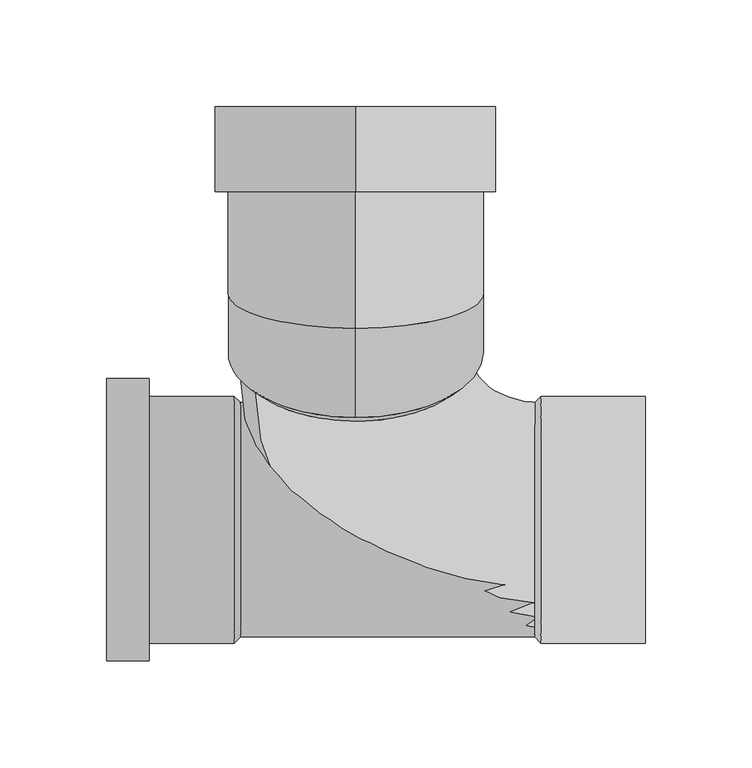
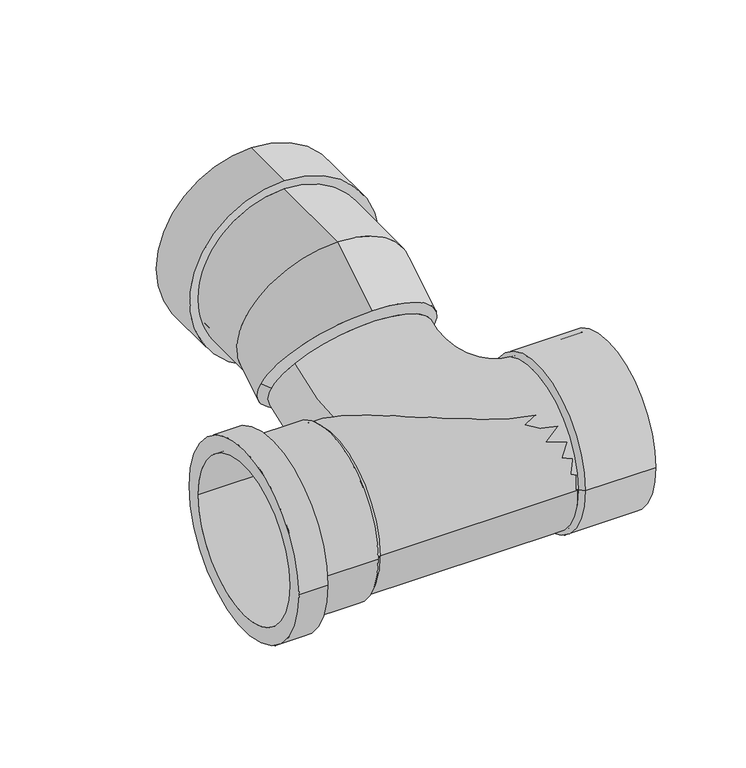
"""IFC4 building model written with IfcOpenShell, lengths in millimetres: pipe fitting geometry, Wavin_PipeAccessory_S&WSPvcBranchWc : 31º."""

from ifc_helpers import new_model, si_unit, point, frame, origin, origin_2d, place, context, project, spatial, polyline, circle_curve, ellipse_curve, trimmed, segment, composite_curve, outline, extrude, source, transform, mapped, element, save
from ifc_brep_helpers import plane_surface, cylinder_surface, revolved_surface, advanced_brep


def pipe_fitting_9da17241(model_context):
    return source(origin(), model_context, "Body", "SolidModel", [
        advanced_brep(
        [(-54.1, -55.0, 0.0), (-54.1, 55.0, 0.0), (-117.0, 55.0, 0.0), (-117.0, -55.0, 0.0), (-97.0, -57.9, 0.0), (-97.0, 57.9, 0.0), (-57.0, 57.9, 0.0), (-57.0, -57.9, 0.0), (-117.0, -66.25, 0.0), (-117.0, 66.25, 0.0), (-97.0, 66.25, 0.0), (-97.0, -66.25, 0.0)],
        [
            (0, 1, circle_curve(frame((-54.1, 0.0, 0.0), z_axis=(1.0, 0.0, 0.0), x_axis=(0.0, 1.0000000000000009, 0.0)), 55.0)),
            (1, 2),
            (2, 3, circle_curve(frame((-117.0, 0.0, 0.0), z_axis=(-1.0, 0.0, 0.0), x_axis=(0.0, 1.0000000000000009, 0.0)), 55.0)),
            (3, 0),
            (4, 5, circle_curve(frame((-97.0, 0.0, 0.0), z_axis=(1.0, 0.0, 0.0), x_axis=(0.0, 1.0000000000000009, 0.0)), 57.9)),
            (5, 6),
            (6, 7, circle_curve(frame((-57.0, 0.0, 0.0), z_axis=(-1.0, 0.0, 0.0), x_axis=(0.0, 1.0000000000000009, 0.0)), 57.9)),
            (7, 4),
            (1, 0, circle_curve(frame((-54.1, 0.0, 0.0), z_axis=(1.0, 0.0, 0.0), x_axis=(0.0, -1.0000000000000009, 0.0)), 55.0)),
            (3, 2, circle_curve(frame((-117.0, 0.0, 0.0), z_axis=(-1.0, 0.0, 0.0), x_axis=(0.0, -1.0000000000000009, 0.0)), 55.0)),
            (5, 4, circle_curve(frame((-97.0, 0.0, 0.0), z_axis=(1.0, 0.0, 0.0), x_axis=(0.0, -1.0000000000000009, 0.0)), 57.9)),
            (7, 6, circle_curve(frame((-57.0, 0.0, 0.0), z_axis=(-1.0, 0.0, 0.0), x_axis=(0.0, -1.0000000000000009, 0.0)), 57.9)),
            (8, 9, circle_curve(frame((-117.0, 0.0, 0.0), z_axis=(1.0, 0.0, 0.0), x_axis=(0.0, 1.0000000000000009, 0.0)), 66.25)),
            (9, 10),
            (10, 11, circle_curve(frame((-97.0, 0.0, 0.0), z_axis=(-1.0, 0.0, 0.0), x_axis=(0.0, 1.0000000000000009, 0.0)), 66.25)),
            (11, 8),
            (10, 11, circle_curve(frame((-97.0, 0.0, 0.0), z_axis=(1.0, 0.0, 0.0), x_axis=(0.0, -1.0000000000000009, 0.0)), 66.25)),
            (9, 8, circle_curve(frame((-117.0, 0.0, 0.0), z_axis=(1.0, 0.0, 0.0), x_axis=(0.0, -1.0000000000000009, 0.0)), 66.25)),
            (6, 1),
            (0, 7),
        ],
        [
            revolved_surface(polyline([(-117.00000000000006, 55.00000000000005, 0.0), (-54.1, 55.00000000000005, 0.0)]), (-57.0, 0.0, 0.0), (-1.0000000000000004, 0.0, 0.0)),
            cylinder_surface(frame((-57.0, 0.0, 0.0), z_axis=(-1.0000000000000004, 0.0, 0.0), x_axis=(0.0, 1.0000000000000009, 0.0)), 57.9),
            revolved_surface(polyline([(-117.00000000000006, -55.00000000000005, 0.0), (-54.1, -55.00000000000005, 0.0)]), (-57.0, 0.0, 0.0), (-1.0000000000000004, 0.0, 0.0)),
            cylinder_surface(frame((-57.0, 0.0, 0.0), z_axis=(-1.0000000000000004, 0.0, 0.0), x_axis=(0.0, -1.0000000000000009, 0.0)), 57.9),
            cylinder_surface(frame((-57.0, 0.0, 0.0), z_axis=(-1.0000000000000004, 0.0, 0.0), x_axis=(0.0, 1.0000000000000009, 0.0)), 66.25),
            plane_surface(frame((-97.0, 0.0, 0.0), z_axis=(1.0, 0.0, 0.0), x_axis=(0.0, -1.0, 0.0))),
            cylinder_surface(frame((-57.0, 0.0, 0.0), z_axis=(-1.0000000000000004, 0.0, 0.0), x_axis=(0.0, -1.0000000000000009, 0.0)), 66.25),
            plane_surface(frame((-117.0, 0.0, 0.0), z_axis=(-1.0, 0.0, 0.0), x_axis=(0.0, -1.0, 0.0))),
            revolved_surface(polyline([(-54.1, 55.0, 0.0), (-57.0, 57.9, 0.0)]), (-57.0, 0.0, 0.0), (-1.0000000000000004, 0.0, 0.0)),
            revolved_surface(polyline([(-54.1, -55.0, 0.0), (-57.0, -57.9, 0.0)]), (-57.0, 0.0, 0.0), (-1.0000000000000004, 0.0, 0.0)),
        ],
        [
            (0, [[1, 2, 3, 4]]),
            (1, [[5, 6, 7, 8]]),
            (2, [[9, -4, 10, -2]]),
            (3, [[11, -8, 12, -6]]),
            (4, [[13, 14, 15, 16]]),
            (5, [[17, -15], [-11, -5]]),
            (6, [[18, -16, -17, -14]]),
            (7, [[-18, -13], [-10, -3]]),
            (8, [[-7, 19, -1, 20]]),
            (9, [[-12, -20, -9, -19]]),
        ],
    ),
        advanced_brep(
        [(87.0, 57.9, 0.0), (87.0, -57.9, 0.0), (84.1, -55.0, 0.0), (84.1, 55.0, 0.0), (136.0, 57.9, 0.0), (136.0, -57.9, 0.0), (136.0, -55.0, 0.0), (136.0, 55.0, 0.0)],
        [
            (0, 1, circle_curve(frame((87.0, 0.0, 0.0), z_axis=(-1.0, 0.0, 0.0), x_axis=(0.0, -1.0, 0.0)), 57.9)),
            (1, 2),
            (2, 3, circle_curve(frame((84.1, 0.0, 0.0), z_axis=(1.0, 0.0, 0.0), x_axis=(0.0, -1.0, 0.0)), 55.0)),
            (3, 0),
            (4, 5, circle_curve(frame((136.0, 0.0, 0.0), z_axis=(-1.0, 0.0, 0.0), x_axis=(0.0, -1.0, 0.0)), 57.9)),
            (5, 1),
            (0, 4),
            (2, 6),
            (6, 7, circle_curve(frame((136.0, 0.0, 0.0), z_axis=(1.0, 0.0, 0.0), x_axis=(0.0, -1.0, 0.0)), 55.0)),
            (7, 3),
            (1, 0, circle_curve(frame((87.0, 0.0, 0.0), z_axis=(-1.0, 0.0, 0.0), x_axis=(0.0, 1.0, 0.0)), 57.9)),
            (3, 2, circle_curve(frame((84.1, 0.0, 0.0), z_axis=(1.0, 0.0, 0.0), x_axis=(0.0, 1.0, 0.0)), 55.0)),
            (5, 4, circle_curve(frame((136.0, 0.0, 0.0), z_axis=(-1.0, 0.0, 0.0), x_axis=(0.0, 1.0, 0.0)), 57.9)),
            (6, 7, circle_curve(frame((136.0, 0.0, 0.0), z_axis=(-1.0, 0.0, 0.0), x_axis=(0.0, 1.0, 0.0)), 55.0)),
        ],
        [
            revolved_surface(polyline([(84.1, -55.0, 0.0), (87.0, -57.9, 0.0)]), (87.0, 0.0, 0.0), (1.0, 0.0, 0.0)),
            cylinder_surface(frame((87.0, 0.0, 0.0), z_axis=(1.0, 0.0, 0.0), x_axis=(0.0, -1.0, 0.0)), 57.9),
            revolved_surface(polyline([(136.0, -55.0, 0.0), (84.1, -55.0, 0.0)]), (87.0, 0.0, 0.0), (1.0, 0.0, 0.0)),
            revolved_surface(polyline([(84.1, 55.0, 0.0), (87.0, 57.9, 0.0)]), (87.0, 0.0, 0.0), (1.0, 0.0, 0.0)),
            cylinder_surface(frame((87.0, 0.0, 0.0), z_axis=(1.0, 0.0, 0.0), x_axis=(0.0, 1.0, 0.0)), 57.9),
            plane_surface(frame((136.0, 0.0, 0.0), z_axis=(1.0, 0.0, 0.0), x_axis=(0.0, 1.0, 0.0))),
            revolved_surface(polyline([(136.0, 55.0, 0.0), (84.1, 55.0, 0.0)]), (87.0, 0.0, 0.0), (1.0, 0.0, 0.0)),
        ],
        [
            (0, [[1, 2, 3, 4]]),
            (1, [[5, 6, -1, 7]]),
            (2, [[-3, 8, 9, 10]]),
            (3, [[11, -4, 12, -2]]),
            (4, [[13, -7, -11, -6]]),
            (5, [[-13, -5], [14, -9]]),
            (6, [[-12, -10, -14, -8]]),
        ],
    ),
        advanced_brep(
        [(87.0, -55.0, 0.0), (87.0, 55.0, 0.0), (-47.1442015, 59.9840231, 69.0893713), (-55.0, 74.5735552, 44.8083125), (47.1442015, 89.1630872, 20.5272537), (55.0, 74.5735552, 44.8083125), (0.0, 194.0030799, -2.0), (0.0, 194.0030799, 130.0), (0.0, 194.0030799, 120.5), (0.0, 194.0030799, 7.5), (0.0, 89.8744142, 124.0), (0.0, 123.1533595, 4.0), (0.0, 154.0030799, 4.0), (0.0, 154.0030799, 124.0), (0.0, 47.9571072, 98.8135409), (60.0, 78.8593917, 47.3835029), (0.0, 109.7616762, -4.0465352), (-60.0, 78.8593917, 47.3835029), (0.0, 154.0030799, -2.0), (0.0, 154.0030799, 130.0), (0.0, 124.0030799, 120.5), (0.0, 124.0030799, 7.5)],
        [
            (0, 1, circle_curve(frame((87.0, 0.0, 0.0), z_axis=(1.0, 0.0, 0.0), x_axis=(0.0, 1.0, 0.0)), 55.0)),
            (1, 0, circle_curve(frame((87.0, 0.0, 0.0), z_axis=(1.0, 0.0, 0.0), x_axis=(0.0, 1.0, 0.0)), 55.0)),
            (0, 2, circle_curve(frame((87.0, 59.9840231, 69.0893713), z_axis=(0.0, 0.5150380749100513, -0.857167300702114), x_axis=(0.0, -0.857167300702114, -0.5150380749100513)), 134.1442015)),
            (2, 3, circle_curve(frame((0.0, 74.5735552, 44.8083125), z_axis=(0.0, -0.8571673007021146, -0.5150380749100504), x_axis=(0.8571673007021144, 0.2652642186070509, -0.4414737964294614)), 55.0)),
            (3, 4, circle_curve(frame((0.0, 74.5735552, 44.8083125), z_axis=(0.0, -0.8571673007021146, -0.5150380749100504), x_axis=(0.8571673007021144, 0.2652642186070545, -0.4414737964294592)), 55.0)),
            (4, 1, circle_curve(frame((87.0, 89.1630872, 20.5272537), z_axis=(0.0, -0.5150380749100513, 0.857167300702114), x_axis=(0.0, -0.857167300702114, -0.5150380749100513)), 39.8557985)),
            (4, 5, circle_curve(frame((0.0, 74.5735552, 44.8083125), z_axis=(0.0, -0.8571673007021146, -0.5150380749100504), x_axis=(0.8571673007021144, 0.2652642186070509, -0.4414737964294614)), 55.0)),
            (5, 2, circle_curve(frame((0.0, 74.5735552, 44.8083125), z_axis=(0.0, -0.8571673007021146, -0.5150380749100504), x_axis=(0.8571673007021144, 0.2652642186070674, -0.4414737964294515)), 55.0)),
            (6, 7, circle_curve(frame((0.0, 194.0030799, 64.0), z_axis=(0.0, 1.0, 0.0), x_axis=(0.0, 0.0, 1.0)), 66.0)),
            (7, 6, circle_curve(frame((0.0, 194.0030799, 64.0), z_axis=(0.0, 1.0, 0.0), x_axis=(0.0, 0.0, 1.0)), 66.0)),
            (8, 9, circle_curve(frame((0.0, 194.0030799, 64.0), z_axis=(0.0, -1.0, 0.0), x_axis=(0.0, 0.0, -1.0)), 56.5)),
            (9, 8, circle_curve(frame((0.0, 194.0030799, 64.0), z_axis=(0.0, -1.0, 0.0), x_axis=(0.0, 0.0, -1.0)), 56.5)),
            (10, 11, ellipse_curve(frame((0.0, 106.5138869, 64.0), z_axis=(0.0, 0.9636304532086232, 0.26723837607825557), x_axis=(0.0, 0.2672383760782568, -0.963630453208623)), 62.2645328, 60.0)),
            (11, 12),
            (12, 13, circle_curve(frame((0.0, 154.0030799, 64.0), z_axis=(0.0, -1.0, 0.0), x_axis=(0.0, 0.0, -1.0)), 60.0)),
            (13, 10),
            (11, 10, ellipse_curve(frame((0.0, 106.5138869, 64.0), z_axis=(0.0, 0.9636304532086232, 0.26723837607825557), x_axis=(0.0, 0.2672383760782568, -0.963630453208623)), 62.2645328, 60.0)),
            (13, 12, circle_curve(frame((0.0, 154.0030799, 64.0), z_axis=(0.0, -1.0, 0.0), x_axis=(0.0, 0.0, -1.0)), 60.0)),
            (10, 14),
            (14, 15, circle_curve(frame((0.0, 78.8593917, 47.3835029), z_axis=(0.0, 0.8571673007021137, 0.5150380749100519), x_axis=(0.0, 0.5150380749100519, -0.8571673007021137)), 60.0)),
            (15, 16, circle_curve(frame((0.0, 78.8593917, 47.3835029), z_axis=(0.0, 0.8571673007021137, 0.5150380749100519), x_axis=(0.0, 0.5150380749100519, -0.8571673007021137)), 60.0)),
            (16, 11),
            (16, 17, circle_curve(frame((0.0, 78.8593917, 47.3835029), z_axis=(0.0, 0.8571673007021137, 0.5150380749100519), x_axis=(0.0, 0.5150380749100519, -0.8571673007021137)), 60.0)),
            (17, 14, circle_curve(frame((0.0, 78.8593917, 47.3835029), z_axis=(0.0, 0.8571673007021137, 0.5150380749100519), x_axis=(0.0, 0.5150380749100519, -0.8571673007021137)), 60.0)),
            (18, 19, circle_curve(frame((0.0, 154.0030799, 64.0), z_axis=(0.0, -1.0, 0.0), x_axis=(0.0, 0.0, 1.0)), 66.0)),
            (19, 18, circle_curve(frame((0.0, 154.0030799, 64.0), z_axis=(0.0, -1.0, 0.0), x_axis=(0.0, 0.0, 1.0)), 66.0)),
            (19, 7),
            (6, 18),
            (20, 21, circle_curve(frame((0.0, 124.0030799, 64.0), z_axis=(0.0, 1.0, 0.0), x_axis=(0.0, 0.0, -1.0)), 56.5)),
            (21, 20, circle_curve(frame((0.0, 124.0030799, 64.0), z_axis=(0.0, 1.0, 0.0), x_axis=(0.0, 0.0, -1.0)), 56.5)),
            (21, 9),
            (8, 20),
            (15, 5),
            (3, 17),
        ],
        [
            plane_surface(frame((87.0, 100.3254589, 1.9499475), z_axis=(1.0, 0.0, 0.0), x_axis=(0.0, -0.857167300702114, -0.5150380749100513))),
            revolved_surface(trimmed(ellipse_curve(frame((87.0, 0.0, 0.0), z_axis=(1.0, 0.0, 0.0), x_axis=(0.0, 1.0, 0.0)), 55.0, 55.0), [point((87.0, -55.0, 0.0))], [point((87.0, 55.0, 0.0))], True, "CARTESIAN"), (87.0, 100.3254589, 1.9499475), (0.0, 0.5150380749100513, -0.857167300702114)),
            revolved_surface(trimmed(ellipse_curve(frame((87.0, 0.0, 0.0), z_axis=(1.0, 0.0, 0.0), x_axis=(0.0, 1.0, 0.0)), 55.0, 55.0), [point((87.0, 55.0, 0.0))], [point((87.0, -55.0, 0.0))], True, "CARTESIAN"), (87.0, 100.3254589, 1.9499475), (0.0, 0.5150380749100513, -0.857167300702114)),
            plane_surface(frame((0.0, 194.0030799, 64.0), z_axis=(0.0, 1.0, 0.0), x_axis=(1.0, 0.0, 0.0))),
            cylinder_surface(frame((0.0, 194.0030799, 64.0), z_axis=(0.0, 1.0, 0.0), x_axis=(0.0, 0.0, -1.0)), 60.0),
            cylinder_surface(frame((0.0, 106.5138869, 64.0), z_axis=(0.0, 0.8571673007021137, 0.5150380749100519), x_axis=(0.0, 0.5150380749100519, -0.8571673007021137)), 60.0),
            plane_surface(frame((0.0, 154.0030799, 130.0), z_axis=(0.0, -1.0, 0.0), x_axis=(-1.0, 0.0, 0.0))),
            cylinder_surface(frame((0.0, 154.0030799, 64.0), z_axis=(0.0, 1.0, 0.0), x_axis=(0.0, 0.0, 1.0)), 66.0),
            plane_surface(frame((0.0, 124.0030799, 7.5), z_axis=(0.0, 1.0, 0.0), x_axis=(1.0, 0.0, 0.0))),
            revolved_surface(polyline([(0.0, 124.0030799, 7.5), (0.0, 194.0030799, 7.5)]), (0.0, 194.0030799, 64.0), (0.0, -1.0, 0.0)),
            revolved_surface(polyline([(-60.0, 78.8593917, 47.3835029), (-55.0, 74.5735552, 44.8083125)]), (0.0, 74.5735552, 44.8083125), (0.0, -0.8571673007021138, -0.5150380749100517)),
            revolved_surface(polyline([(60.0, 78.8593917, 47.3835029), (55.0, 74.5735552, 44.8083125)]), (0.0, 74.5735552, 44.8083125), (0.0, -0.8571673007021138, -0.5150380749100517)),
        ],
        [
            (0, [[1, 2]]),
            (1, [[-1, 3, 4, 5, 6]]),
            (2, [[-2, -6, 7, 8, -3]]),
            (3, [[9, 10], [11, 12]]),
            (4, [[13, 14, 15, 16]]),
            (4, [[17, -16, 18, -14]]),
            (5, [[-13, 19, 20, 21, 22]]),
            (5, [[-17, -22, 23, 24, -19]]),
            (6, [[25, 26], [-15, -18]]),
            (7, [[-26, 27, -9, 28]]),
            (7, [[-25, -28, -10, -27]]),
            (8, [[29, 30]]),
            (9, [[-30, 31, -11, 32]]),
            (9, [[-29, -32, -12, -31]]),
            (10, [[33, -7, -5, 34, -23, -21]]),
            (11, [[-33, -20, -24, -34, -4, -8]]),
        ],
    ),
        extrude(outline(composite_curve([segment(trimmed(circle_curve(origin_2d(), 55.0), [point((-55.0, 0.0))], [point((55.0, 0.0))], False, "CARTESIAN"), True, "CONTINUOUS"), segment(trimmed(circle_curve(origin_2d(), 55.0), [point((55.0, 0.0))], [point((-55.0, 0.0))], False, "CARTESIAN"), True, "CONTINUOUS")], self_intersect=False)), frame((-57.0, 0.0, 0.0), z_axis=(1.0, 0.0, 0.0), x_axis=(0.0, 1.0, 0.0)), (0.0, 0.0, 1.0), 144.0),
    ])


if __name__ == "__main__":
    model = new_model("IFC4")
    model_context = context("Model", 3, world=origin())
    ifc_project = project(units=[si_unit("LENGTHUNIT", "METRE", prefix="MILLI")], contexts=[model_context])
    site = spatial("IfcSite", under=ifc_project)
    building = spatial("IfcBuilding", under=site)
    placement = place(None, origin())
    pipe_fitting_shape = pipe_fitting_9da17241(model_context)
    element("IfcPipeFitting", 1, ObjectType="Wavin_PipeAccessory_S&WSPvcBranchWc : 31º", at=placement, inside=building, context=model_context, shape_type="MappedRepresentation", body=[
        mapped(pipe_fitting_shape, transform((0.0, 0.0, 0.0), x_axis=(1.0, 0.0, 0.0), y_axis=(0.0, 1.0, 0.0), z_axis=(0.0, 0.0, 1.0))),
    ])
    save(model, "model.ifc")
